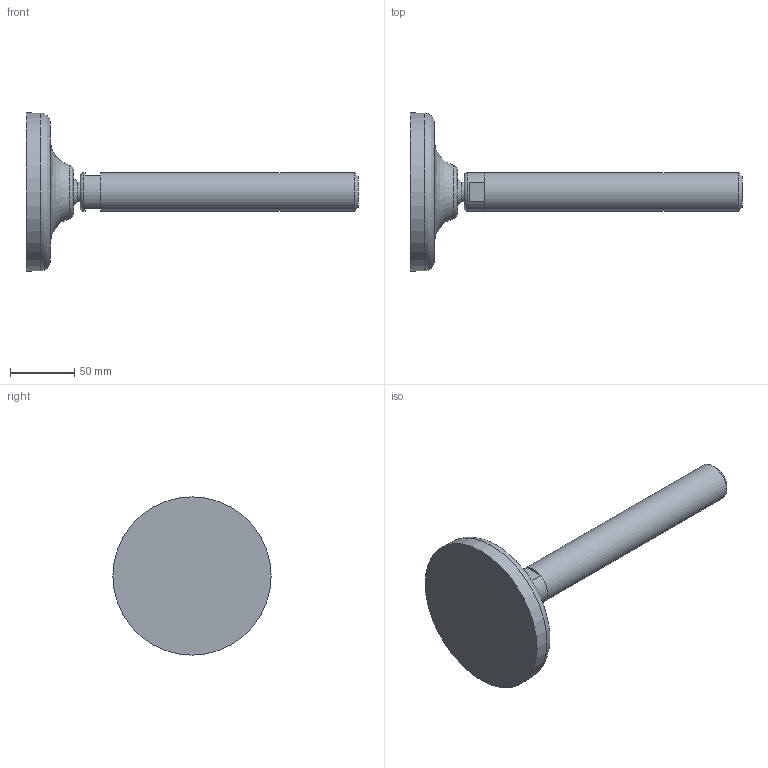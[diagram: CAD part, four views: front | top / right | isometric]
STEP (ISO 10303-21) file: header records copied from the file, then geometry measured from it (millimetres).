
FILE_DESCRIPTION(('STEP AP203'),'2;1');
FILE_NAME('10434.stp','2017-06-15T11:09:12',(''),(''),'2014.1.117','THINKDESIGN','');
FILE_SCHEMA(('CONFIG_CONTROL_DESIGN'));
Length unit declared in the file: millimetre
Bounding box: 258.03 x 123 x 123 mm (x, y, z)
Volume: 407649.2 mm3; surface area: 54645.7 mm2
Topology: 4 solids, 4 shells, 23 faces, 51 edges, 37 vertices
Faces by surface type: plane 13, bspline 7, cylinder 3
Full cylindrical faces by diameter (mm): 15.5 x1, 30 x2
Entity records: 1258 total; most frequent: CARTESIAN_POINT 633, DIRECTION 121, ORIENTED_EDGE 102, AXIS2_PLACEMENT_3D 54, EDGE_CURVE 51, CIRCLE 38, VERTEX_POINT 37, EDGE_LOOP 24
